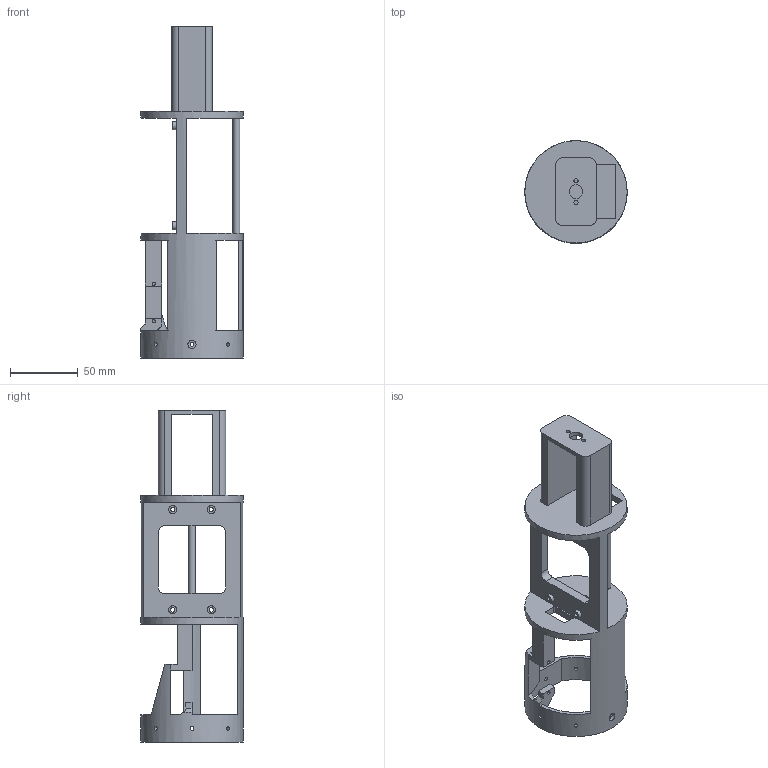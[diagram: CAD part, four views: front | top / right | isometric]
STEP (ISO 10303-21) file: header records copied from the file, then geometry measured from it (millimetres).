
FILE_DESCRIPTION(/* description */ ('STEP AP242 Edition 2','CAx-IF Rec.Pracs.---Representation and Presentation of Product Manufacturing Information (PMI)---4.0---2014-10-13','CAx-IF Rec.Pracs.---3D Tessellated Geometry---0.4---2014-09-14','2;1','CAx-IF Rec.Pracs.---User Defined Attributes---1.5---2016-08-15'),/* implementation_level */ '2;1');
FILE_NAME(/* name */ '695afe63d13f1a02338892aa',/* time_stamp */ '2026-01-04T23:57:24Z',/* author */ (''),/* organization */ (''),/* preprocessor_version */ 'ST-DEVELOPER v20',/* originating_system */ 'ONSHAPE BY PTC INC, 1.208',/* authorisation */ ' ');
FILE_SCHEMA (('AP242_MANAGED_MODEL_BASED_3D_ENGINEERING_MIM_LF { 1 0 10303 442 3 1 4 }'));
Length unit declared in the file: metre
Products named in the file (1): Part 1
Bounding box: 75.5 x 75.5 x 245 mm (x, y, z)
Volume: 140401.2 mm3; surface area: 62992.3 mm2
Topology: 1 solids, 1 shells, 116 faces, 353 edges, 237 vertices
Faces by surface type: plane 70, cylinder 44, cone 2
Full cylindrical faces by diameter (mm): 2.3 x2, 2.9 x8, 3 x2, 3.2 x4, 5 x1, 6 x6, 10 x1, 75.5 x1
Entity records: 3944 total; most frequent: CARTESIAN_POINT 797, DIRECTION 628, ORIENTED_EDGE 620, EDGE_CURVE 310, VERTEX_POINT 221, AXIS2_PLACEMENT_3D 218, EDGE_LOOP 195, FACE_BOUND 195
